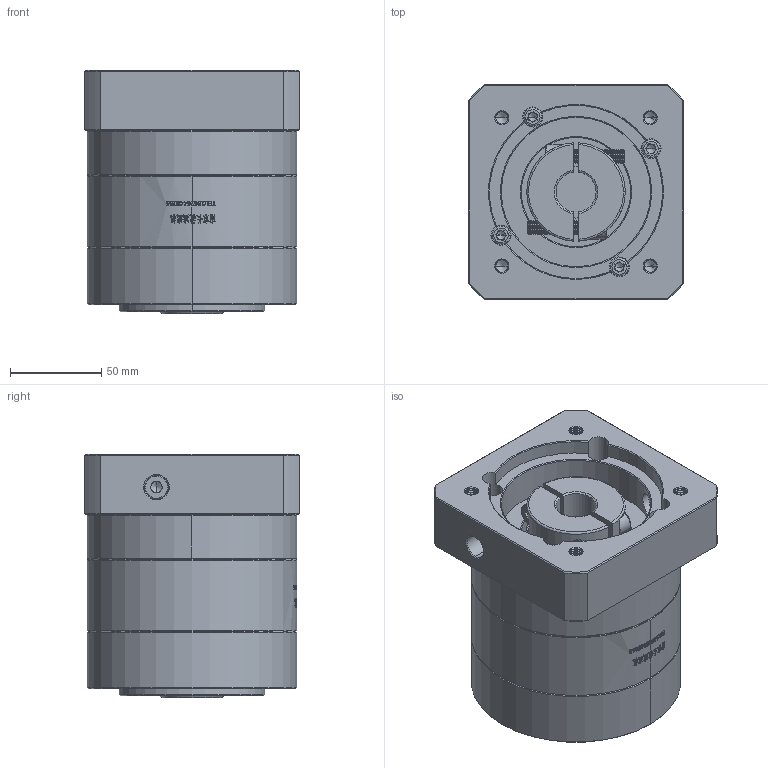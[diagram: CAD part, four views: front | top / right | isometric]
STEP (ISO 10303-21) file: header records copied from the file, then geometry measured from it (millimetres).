
FILE_DESCRIPTION (( 'STEP AP214' ), '1' );
FILE_NAME ('ZE120A-K25-L1-22-95-115-M8.step', '2023-03-09T06:32:01', ( '' ), ( '' ), 'SwSTEP 2.0', 'SolidWorks 2016', '' );
FILE_SCHEMA (( 'AUTOMOTIVE_DESIGN' ));
Length unit declared in the file: millimetre
Products named in the file (1): ZE120A-K25-L1-22-95-115-M8
Bounding box: 118 x 118 x 133.5 mm (x, y, z)
Volume: 1257524.8 mm3; surface area: 151728.3 mm2
Topology: 6 solids, 6 shells, 1987 faces, 5248 edges, 3354 vertices
Faces by surface type: plane 829, cylinder 494, bspline 344, cone 320
Entity records: 113357 total; most frequent: CARTESIAN_POINT 46793, ORIENTED_EDGE 10424, DIRECTION 7840, EDGE_CURVE 5212, VERTEX_POINT 3354, LINE 2750, VECTOR 2750, AXIS2_PLACEMENT_3D 2545
